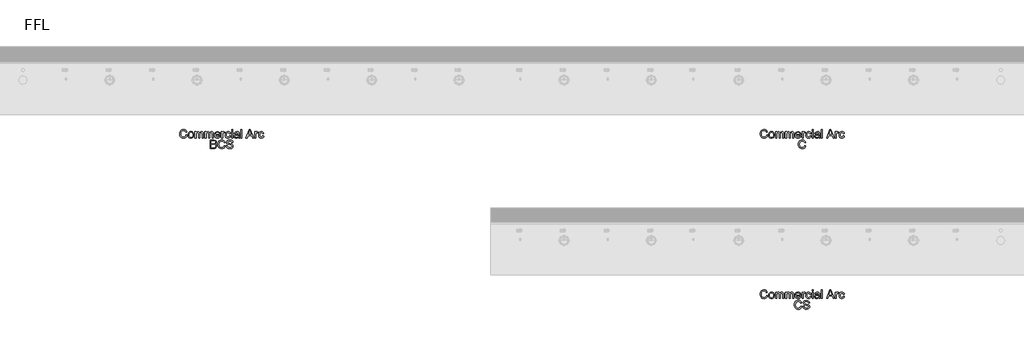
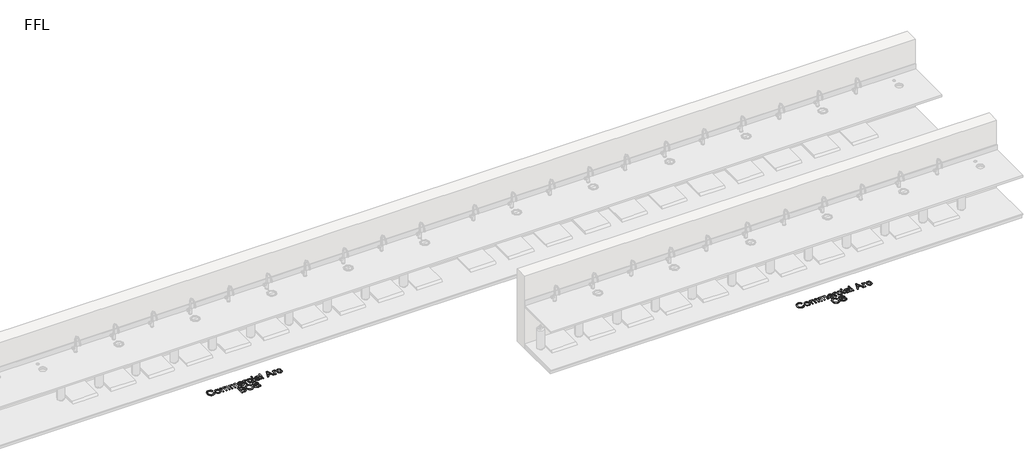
# One storey, part 7 of 10: 3 proxies.
"""IFC4 building model written with IfcOpenShell, lengths in millimetres."""

from ifc_helpers import new_model, si_unit, origin, origin_with_axes, place, context, project, spatial, polyline, outline, extrude, element, save

model = new_model("IFC4")

# Units and contexts
model_context = context("Model", 3, world=origin())
ifc_project = project(units=[si_unit("LENGTHUNIT", "METRE", prefix="MILLI")], contexts=[model_context])

# Site, building, storey
site = spatial("IfcSite", under=ifc_project)
building = spatial("IfcBuilding", under=site)
storey = spatial("IfcBuildingStorey", under=building, Name="FFL", Elevation=0.0)

# Proxies
placement = place(None, origin())
element("IfcBuildingElementProxy", 1, Name="150mm Arial", ObjectType="150mm Arial", at=placement, inside=storey, context=model_context, shape_type="SweptSolid", body=[
    extrude(outline(polyline([(-2955.1199083, -1683.6981691), (-2936.6583698, -1688.4577845), (-2945.1769996, -1709.9707052), (-2958.545389, -1725.6873518), (-2976.1054852, -1735.301234), (-2997.1992352, -1738.5058614), (-3018.6129972, -1736.0809816), (-3035.6187063, -1728.8063422), (-3048.6535621, -1716.934347), (-3058.154764, -1700.7173999), (-3063.9555453, -1681.6518951), (-3065.889139, -1661.2342268), (-3063.7031414, -1639.6987701), (-3057.1451486, -1621.1020153), (-3046.5577087, -1606.0344071), (-3032.2833698, -1595.0863903), (-3015.3542833, -1588.4202244), (-2996.8026006, -1586.1981691), (-2976.5607135, -1589.0737701), (-2959.8254371, -1597.700573), (-2947.1196078, -1611.5467268), (-2938.9660621, -1630.0803807), (-2957.4276006, -1634.4794191), (-2963.8278409, -1621.0163783), (-2972.5718313, -1611.7811018), (-2983.7677448, -1606.4400561), (-2997.5237544, -1604.6597076), (-3013.3801246, -1606.6338662), (-3026.4059659, -1612.5563422), (-3036.2902809, -1621.8051403), (-3042.7220717, -1633.7582653), (-3047.4276006, -1661.1981691), (-3041.8566871, -1693.0010537), (-3034.7352929, -1704.8775561), (-3024.5129371, -1713.3195633), (-3012.2578289, -1718.3631331), (-2999.0381775, -1720.044323), (-2983.6280212, -1717.7546595), (-2970.7869756, -1710.8856691), (-2961.0919635, -1699.5094672), (-2955.1199083, -1683.6981691)])), origin_with_axes(), (0.0, 0.0, 1.0), 5.0),
    extrude(outline(polyline([(-2918.1968313, -1681.9673999), (-2914.2034419, -1655.8165585), (-2902.2232736, -1637.4361499), (-2887.4215909, -1628.4307412), (-2869.6992352, -1625.4289383), (-2850.3047039, -1629.0842869), (-2834.8134179, -1640.0503326), (-2824.6586703, -1657.4616908), (-2821.2737544, -1680.4529768), (-2822.7701486, -1699.1038182), (-2827.2593313, -1713.3015345), (-2834.6105934, -1723.9340465), (-2844.6932256, -1731.8892749), (-2856.6688866, -1736.8517148), (-2869.6992352, -1738.5058614), (-2889.3281414, -1734.8640345), (-2904.8013986, -1723.9385537), (-2914.8479732, -1706.1621114), (-2918.1968313, -1681.9673999)]), holes=[polyline([(-2899.7352929, -1681.9313422), (-2897.5988746, -1698.6395754), (-2891.1896198, -1710.543121), (-2881.5441871, -1717.6690225), (-2869.6992352, -1720.044323), (-2857.9083698, -1717.6555008), (-2848.2809659, -1710.4890345), (-2841.8717111, -1698.4277364), (-2839.7352929, -1681.3544191), (-2841.8852328, -1665.1329648), (-2848.3350525, -1653.3916787), (-2857.975978, -1646.2657773), (-2869.6992352, -1643.8904768), (-2881.5441871, -1646.2567629), (-2891.1896198, -1653.355621), (-2897.5988746, -1665.2321234), (-2899.7352929, -1681.9313422)])]), origin_with_axes(), (0.0, 0.0, 1.0), 5.0),
    extrude(outline(polyline([(-2800.5045236, -1736.1981691), (-2800.5045236, -1627.7366307), (-2782.0429852, -1627.7366307), (-2782.0429852, -1645.5851883), (-2769.3506775, -1630.9637941), (-2751.2857736, -1625.4289383), (-2741.0183458, -1626.8396956), (-2732.7881775, -1631.0719672), (-2722.6199083, -1646.8832653), (-2708.2148602, -1630.7925201), (-2690.0237544, -1625.4289383), (-2676.1460501, -1627.6600081), (-2665.8831294, -1634.3532172), (-2659.5414828, -1645.6888542), (-2657.4276006, -1661.8472076), (-2657.4276006, -1736.1981691), (-2675.889139, -1736.1981691), (-2675.889139, -1669.7798999), (-2677.6018794, -1654.3652364), (-2683.8038025, -1646.7750922), (-2694.3506775, -1643.8904768), (-2704.3521799, -1645.7384335), (-2712.5057256, -1651.2823037), (-2717.927901, -1660.9006932), (-2719.7352929, -1674.9722076), (-2719.7352929, -1736.1981691), (-2738.1968313, -1736.1981691), (-2738.1968313, -1667.7246114), (-2742.4696679, -1649.839996), (-2748.1081895, -1645.3778566), (-2756.4780813, -1643.8904768), (-2770.1439467, -1647.856823), (-2779.2304852, -1659.4673999), (-2782.0429852, -1681.4986499), (-2782.0429852, -1736.1981691), (-2800.5045236, -1736.1981691)])), origin_with_axes(), (0.0, 0.0, 1.0), 5.0),
    extrude(outline(polyline([(-2629.7352929, -1736.1981691), (-2629.7352929, -1627.7366307), (-2611.2737544, -1627.7366307), (-2611.2737544, -1645.5851883), (-2598.5814467, -1630.9637941), (-2580.5165429, -1625.4289383), (-2570.249115, -1626.8396956), (-2562.0189467, -1631.0719672), (-2551.8506775, -1646.8832653), (-2537.4456294, -1630.7925201), (-2519.2545236, -1625.4289383), (-2505.3768193, -1627.6600081), (-2495.1138986, -1634.3532172), (-2488.772252, -1645.6888542), (-2486.6583698, -1661.8472076), (-2486.6583698, -1736.1981691), (-2505.1199083, -1736.1981691), (-2505.1199083, -1669.7798999), (-2506.8326486, -1654.3652364), (-2513.0345717, -1646.7750922), (-2523.5814467, -1643.8904768), (-2533.5829491, -1645.7384335), (-2541.7364948, -1651.2823037), (-2547.1586703, -1660.9006932), (-2548.9660621, -1674.9722076), (-2548.9660621, -1736.1981691), (-2567.4276006, -1736.1981691), (-2567.4276006, -1667.7246114), (-2571.7004371, -1649.839996), (-2577.3389587, -1645.3778566), (-2585.7088506, -1643.8904768), (-2599.3747159, -1647.856823), (-2608.4612544, -1659.4673999), (-2611.2737544, -1681.4986499), (-2611.2737544, -1736.1981691), (-2629.7352929, -1736.1981691)])), origin_with_axes(), (0.0, 0.0, 1.0), 5.0),
    extrude(outline(polyline([(-2383.0285621, -1703.8904768), (-2364.9276006, -1706.1981691), (-2371.4495357, -1719.8369912), (-2381.8566871, -1730.0323037), (-2395.9146799, -1736.387472), (-2413.389139, -1738.5058614), (-2435.0507977, -1734.8505129), (-2451.7184659, -1723.8844672), (-2462.3464708, -1706.3198638), (-2465.889139, -1682.8688422), (-2462.3104131, -1658.6290585), (-2451.5742352, -1640.5010537), (-2435.1319275, -1629.1969672), (-2414.4348121, -1625.4289383), (-2394.382228, -1629.1879528), (-2378.3590909, -1640.464996), (-2367.8527809, -1658.5569432), (-2364.3506775, -1682.7606691), (-2364.4588506, -1687.7366307), (-2447.4276006, -1687.7366307), (-2444.2319876, -1701.5557412), (-2436.8086102, -1711.714996), (-2426.0949684, -1717.9619912), (-2413.0285621, -1720.044323), (-2394.9276006, -1716.1861499), (-2383.0285621, -1703.8904768)]), holes=[polyline([(-2447.4276006, -1669.2750922), (-2382.8122159, -1669.2750922), (-2385.3092111, -1659.5214864), (-2390.2040429, -1652.544323), (-2400.967264, -1646.0539383), (-2414.5069275, -1643.8904768), (-2426.9513385, -1645.6167388), (-2437.2413025, -1650.7955249), (-2444.3942472, -1658.8679408), (-2447.4276006, -1669.2750922)])]), origin_with_axes(), (0.0, 0.0, 1.0), 5.0),
    extrude(outline(polyline([(-2345.889139, -1736.1981691), (-2345.889139, -1627.7366307), (-2329.7352929, -1627.7366307), (-2329.7352929, -1643.7823037), (-2318.2689467, -1628.9986499), (-2306.7304852, -1625.4289383), (-2288.1968313, -1631.1260537), (-2294.3626967, -1647.6765345), (-2307.3434659, -1643.8904768), (-2317.7821679, -1647.5323037), (-2324.4348121, -1657.6284576), (-2327.4276006, -1679.1909576), (-2327.4276006, -1736.1981691), (-2345.889139, -1736.1981691)])), origin_with_axes(), (0.0, 0.0, 1.0), 5.0),
    extrude(outline(polyline([(-2207.4276006, -1696.9673999), (-2188.9660621, -1699.2750922), (-2194.1132977, -1715.6948638), (-2203.7857736, -1728.1032172), (-2217.0730333, -1735.9052004), (-2233.0646198, -1738.5058614), (-2252.7025405, -1734.8775561), (-2268.0586102, -1723.9926403), (-2277.9699684, -1706.3288783), (-2281.2737544, -1682.3640345), (-2275.6307256, -1651.6969672), (-2268.5093313, -1640.1990706), (-2258.4312063, -1631.9914383), (-2246.3744155, -1627.0695633), (-2233.3170236, -1625.4289383), (-2217.7175645, -1627.6825441), (-2205.2461102, -1634.4433614), (-2196.2992953, -1645.3508133), (-2191.2737544, -1660.044323), (-2209.7352929, -1662.3520153), (-2218.2989948, -1648.5238903), (-2233.1727929, -1643.8904768), (-2245.1033818, -1646.1711258), (-2254.5730333, -1653.013073), (-2260.7524203, -1664.7859095), (-2262.8122159, -1681.8592268), (-2260.7974924, -1699.1624119), (-2254.7533217, -1710.9758133), (-2245.4549443, -1717.7771956), (-2233.6776006, -1720.044323), (-2224.1178049, -1718.6290585), (-2216.279764, -1714.3832653), (-2210.5781414, -1707.1987701), (-2207.4276006, -1696.9673999)])), origin_with_axes(), (0.0, 0.0, 1.0), 5.0),
    extrude(outline(polyline([(-2172.8122159, -1606.9673999), (-2172.8122159, -1588.5058614), (-2154.3506775, -1588.5058614), (-2154.3506775, -1606.9673999), (-2172.8122159, -1606.9673999)])), origin_with_axes(), (0.0, 0.0, 1.0), 5.0),
    extrude(outline(polyline([(-2172.8122159, -1736.1981691), (-2172.8122159, -1627.7366307), (-2154.3506775, -1627.7366307), (-2154.3506775, -1736.1981691), (-2172.8122159, -1736.1981691)])), origin_with_axes(), (0.0, 0.0, 1.0), 5.0),
    extrude(outline(polyline([(-2057.4276006, -1722.3520153), (-2075.3302448, -1734.8640345), (-2095.107889, -1738.5058614), (-2110.5360741, -1736.3153566), (-2121.9167833, -1729.7438422), (-2128.9345116, -1719.7648758), (-2131.2737544, -1707.3520153), (-2127.7401006, -1692.7486499), (-2118.4552448, -1682.1476883), (-2105.5285621, -1676.089996), (-2089.5550044, -1673.3135537), (-2057.5357736, -1666.9673999), (-2057.4276006, -1662.856823), (-2058.6986342, -1654.6176403), (-2062.5117352, -1649.2270153), (-2071.0393794, -1645.2246114), (-2082.920389, -1643.8904768), (-2101.5982736, -1647.4421595), (-2110.5045236, -1660.044323), (-2128.9660621, -1657.7366307), (-2120.9792833, -1639.7077845), (-2104.8975525, -1629.1428807), (-2080.5405813, -1625.4289383), (-2058.1667833, -1628.7101883), (-2045.5285621, -1636.949371), (-2039.8675044, -1649.4794191), (-2038.9660621, -1665.6332653), (-2038.9660621, -1688.6020153), (-2038.0285621, -1720.6753326), (-2034.3506775, -1736.1981691), (-2052.8122159, -1736.1981691), (-2057.4276006, -1722.3520153)]), holes=[polyline([(-2057.4276006, -1685.4289383), (-2087.2112544, -1691.089996), (-2103.0946679, -1694.0827845), (-2110.2881775, -1698.950573), (-2112.8122159, -1706.0539383), (-2107.3134179, -1716.0419191), (-2091.1776006, -1720.044323), (-2072.4997159, -1715.6272557), (-2060.4564467, -1704.9361499), (-2057.5357736, -1690.6573037), (-2057.4276006, -1685.4289383)])]), origin_with_axes(), (0.0, 0.0, 1.0), 5.0),
    extrude(outline(polyline([(-2013.5814467, -1736.1981691), (-2013.5814467, -1588.5058614), (-1995.1199083, -1588.5058614), (-1995.1199083, -1736.1981691), (-2013.5814467, -1736.1981691)])), origin_with_axes(), (0.0, 0.0, 1.0), 5.0),
    extrude(outline(polyline([(-1924.6271198, -1736.1981691), (-1865.6727929, -1588.5058614), (-1849.951639, -1588.5058614), (-1790.9973121, -1736.1981691), (-1810.5045236, -1736.1981691), (-1827.4155813, -1690.044323), (-1888.2449083, -1690.044323), (-1905.1199083, -1736.1981691), (-1924.6271198, -1736.1981691)]), holes=[polyline([(-1881.4660621, -1671.5827845), (-1834.1583698, -1671.5827845), (-1847.4636583, -1635.2726883), (-1857.8122159, -1606.9673999), (-1867.0069275, -1632.0996114), (-1881.4660621, -1671.5827845)])]), origin_with_axes(), (0.0, 0.0, 1.0), 5.0),
    extrude(outline(polyline([(-1773.5814467, -1736.1981691), (-1773.5814467, -1627.7366307), (-1757.4276006, -1627.7366307), (-1757.4276006, -1643.7823037), (-1745.9612544, -1628.9986499), (-1734.4227929, -1625.4289383), (-1715.889139, -1631.1260537), (-1722.0550044, -1647.6765345), (-1735.0357736, -1643.8904768), (-1745.4744756, -1647.5323037), (-1752.1271198, -1657.6284576), (-1755.1199083, -1679.1909576), (-1755.1199083, -1736.1981691), (-1773.5814467, -1736.1981691)])), origin_with_axes(), (0.0, 0.0, 1.0), 5.0),
    extrude(outline(polyline([(-1635.1199083, -1696.9673999), (-1616.6583698, -1699.2750922), (-1621.8056054, -1715.6948638), (-1631.4780813, -1728.1032172), (-1644.7653409, -1735.9052004), (-1660.7569275, -1738.5058614), (-1680.3948482, -1734.8775561), (-1695.7509179, -1723.9926403), (-1705.662276, -1706.3288783), (-1708.9660621, -1682.3640345), (-1703.3230333, -1651.6969672), (-1696.201639, -1640.1990706), (-1686.123514, -1631.9914383), (-1674.0667232, -1627.0695633), (-1661.0093313, -1625.4289383), (-1645.4098722, -1627.6825441), (-1632.9384179, -1634.4433614), (-1623.991603, -1645.3508133), (-1618.9660621, -1660.044323), (-1637.4276006, -1662.3520153), (-1645.9913025, -1648.5238903), (-1660.8651006, -1643.8904768), (-1672.7956895, -1646.1711258), (-1682.2653409, -1653.013073), (-1688.444728, -1664.7859095), (-1690.5045236, -1681.8592268), (-1688.4898001, -1699.1624119), (-1682.4456294, -1710.9758133), (-1673.147252, -1717.7771956), (-1661.3699083, -1720.044323), (-1651.8101126, -1718.6290585), (-1643.9720717, -1714.3832653), (-1638.2704491, -1707.1987701), (-1635.1199083, -1696.9673999)])), origin_with_axes(), (0.0, 0.0, 1.0), 5.0),
    extrude(outline(polyline([(-2538.5814467, -1918.5058614), (-2538.5814467, -1770.8135537), (-2482.2232736, -1770.8135537), (-2454.6211102, -1775.1585057), (-2445.3452688, -1780.6708254), (-2438.3230333, -1788.5178807), (-2432.4276006, -1807.4121114), (-2437.3855333, -1824.6657172), (-2452.3675044, -1837.7366307), (-2441.9062664, -1843.199371), (-2434.1763986, -1851.5106691), (-2429.4032616, -1862.1206451), (-2427.8122159, -1874.4794191), (-2432.1571679, -1894.3291787), (-2442.920389, -1908.4637941), (-2458.9840909, -1915.9637941), (-2482.6559659, -1918.5058614), (-2538.5814467, -1918.5058614)]), holes=[polyline([(-2520.1199083, -1900.044323), (-2482.2593313, -1900.044323), (-2468.5574083, -1899.3231691), (-2456.9648602, -1895.3027364), (-2449.2845717, -1887.0996114), (-2446.2737544, -1874.6597076), (-2449.8074083, -1860.308746), (-2461.2557256, -1851.7450441), (-2484.0622159, -1849.2750922), (-2520.1199083, -1849.2750922), (-2520.1199083, -1900.044323)]), polyline([(-2520.1199083, -1830.8135537), (-2486.4059659, -1830.8135537), (-2466.7184659, -1829.2270153), (-2454.873514, -1822.3940826), (-2450.889139, -1810.3688422), (-2454.6030813, -1798.325573), (-2465.2401006, -1791.2041787), (-2488.9660621, -1789.2750922), (-2520.1199083, -1789.2750922), (-2520.1199083, -1830.8135537)])]), origin_with_axes(), (0.0, 0.0, 1.0), 5.0),
    extrude(outline(polyline([(-2298.5814467, -1866.0058614), (-2280.1199083, -1870.7654768), (-2288.6385381, -1892.2783975), (-2302.0069275, -1907.9950441), (-2319.5670236, -1917.6089263), (-2340.6607736, -1920.8135537), (-2362.0745357, -1918.3886739), (-2379.0802448, -1911.1140345), (-2392.1151006, -1899.2420393), (-2401.6163025, -1883.0250922), (-2407.4170837, -1863.9595874), (-2409.3506775, -1843.5419191), (-2407.1646799, -1822.0064624), (-2400.6066871, -1803.4097076), (-2390.0192472, -1788.3420994), (-2375.7449083, -1777.3940826), (-2358.8158217, -1770.7279167), (-2340.264139, -1768.5058614), (-2320.022252, -1771.3814624), (-2303.2869756, -1780.0082653), (-2290.5811462, -1793.8544191), (-2282.4276006, -1812.388073), (-2300.889139, -1816.7871114), (-2307.2893794, -1803.3240706), (-2316.0333698, -1794.0887941), (-2327.2292833, -1788.7477484), (-2340.9852929, -1786.9673999), (-2356.8416631, -1788.9415585), (-2369.8675044, -1794.8640345), (-2379.7518193, -1804.1128326), (-2386.1836102, -1816.0659576), (-2390.889139, -1843.5058614), (-2385.3182256, -1875.308746), (-2378.1968313, -1887.1852484), (-2367.9744756, -1895.6272557), (-2355.7193674, -1900.6708254), (-2342.4997159, -1902.3520153), (-2327.0895597, -1900.0623518), (-2314.248514, -1893.1933614), (-2304.553502, -1881.8171595), (-2298.5814467, -1866.0058614)])), origin_with_axes(), (0.0, 0.0, 1.0), 5.0),
    extrude(outline(polyline([(-2261.6583698, -1867.7366307), (-2243.1968313, -1867.7366307), (-2237.2473121, -1886.216198), (-2222.7160621, -1897.8988903), (-2200.576639, -1902.3520153), (-2181.2857736, -1898.980621), (-2168.8278409, -1889.7137941), (-2164.7352929, -1877.3279768), (-2167.8001967, -1865.8075441), (-2180.3482736, -1857.4241307), (-2207.2292833, -1850.3748518), (-2236.1655813, -1841.2702845), (-2251.8687063, -1827.5323037), (-2257.0429852, -1809.1789383), (-2255.4429251, -1798.3661379), (-2250.6427448, -1788.2835057), (-2242.7686462, -1779.7378326), (-2231.9468313, -1773.5359095), (-2204.5790429, -1768.5058614), (-2175.3723121, -1773.7702845), (-2164.1763986, -1780.2696835), (-2155.9011583, -1789.2390345), (-2150.6637784, -1800.1194432), (-2148.5814467, -1812.3520153), (-2167.0429852, -1812.3520153), (-2170.4324083, -1801.3363903), (-2177.4997159, -1793.3856691), (-2188.5423842, -1788.5719672), (-2203.857889, -1786.9673999), (-2219.5339708, -1788.5539383), (-2230.2881775, -1793.3135537), (-2236.5081294, -1800.3177605), (-2238.5814467, -1808.638073), (-2237.1120958, -1815.7324239), (-2232.7040429, -1821.4385537), (-2202.5598121, -1831.7510537), (-2169.8915429, -1841.0178807), (-2159.3672039, -1847.715597), (-2152.0249563, -1855.981823), (-2146.2737544, -1876.8592268), (-2147.927901, -1888.2399359), (-2152.8903409, -1898.9445633), (-2160.9582496, -1908.1573037), (-2171.9288025, -1915.0623518), (-2199.8554852, -1920.8135537), (-2217.9429251, -1919.263073), (-2232.8302448, -1914.6116307), (-2244.6887184, -1906.841198), (-2253.6896198, -1895.933746), (-2259.467865, -1882.6464864), (-2261.6583698, -1867.7366307)])), origin_with_axes(), (0.0, 0.0, 1.0), 5.0),
])
element("IfcBuildingElementProxy", 2, Name="150mm Arial", ObjectType="150mm Arial", at=placement, inside=storey, context=model_context, shape_type="SweptSolid", body=[
    extrude(outline(polyline([(7014.8800917, -1683.6981691), (7033.3416302, -1688.4577845), (7024.8230004, -1709.9707052), (7011.454611, -1725.6873518), (6993.8945148, -1735.301234), (6972.8007648, -1738.5058614), (6951.3870028, -1736.0809816), (6934.3812937, -1728.8063422), (6921.3464379, -1716.934347), (6911.845236, -1700.7173999), (6906.0444547, -1681.6518951), (6904.110861, -1661.2342268), (6906.2968586, -1639.6987701), (6912.8548514, -1621.1020153), (6923.4422913, -1606.0344071), (6937.7166302, -1595.0863903), (6954.6457167, -1588.4202244), (6973.1973994, -1586.1981691), (6993.4392865, -1589.0737701), (7010.1745629, -1597.700573), (7022.8803922, -1611.5467268), (7031.0339379, -1630.0803807), (7012.5723994, -1634.4794191), (7006.1721591, -1621.0163783), (6997.4281687, -1611.7811018), (6986.2322552, -1606.4400561), (6972.4762456, -1604.6597076), (6956.6198754, -1606.6338662), (6943.5940341, -1612.5563422), (6933.7097191, -1621.8051403), (6927.2779283, -1633.7582653), (6922.5723994, -1661.1981691), (6928.1433129, -1693.0010537), (6935.2647071, -1704.8775561), (6945.4870629, -1713.3195633), (6957.7421711, -1718.3631331), (6970.9618225, -1720.044323), (6986.3719788, -1717.7546595), (6999.2130244, -1710.8856691), (7008.9080365, -1699.5094672), (7014.8800917, -1683.6981691)])), origin_with_axes(), (0.0, 0.0, 1.0), 5.0),
    extrude(outline(polyline([(7051.8031687, -1681.9673999), (7055.7965581, -1655.8165585), (7067.7767264, -1637.4361499), (7082.5784091, -1628.4307412), (7100.3007648, -1625.4289383), (7119.6952961, -1629.0842869), (7135.1865821, -1640.0503326), (7145.3413297, -1657.4616908), (7148.7262456, -1680.4529768), (7147.2298514, -1699.1038182), (7142.7406687, -1713.3015345), (7135.3894066, -1723.9340465), (7125.3067744, -1731.8892749), (7113.3311134, -1736.8517148), (7100.3007648, -1738.5058614), (7080.6718586, -1734.8640345), (7065.1986014, -1723.9385537), (7055.1520268, -1706.1621114), (7051.8031687, -1681.9673999)]), holes=[polyline([(7070.2647071, -1681.9313422), (7072.4011254, -1698.6395754), (7078.8103802, -1710.543121), (7088.4558129, -1717.6690225), (7100.3007648, -1720.044323), (7112.0916302, -1717.6555008), (7121.7190341, -1710.4890345), (7128.1282889, -1698.4277364), (7130.2647071, -1681.3544191), (7128.1147672, -1665.1329648), (7121.6649475, -1653.3916787), (7112.024022, -1646.2657773), (7100.3007648, -1643.8904768), (7088.4558129, -1646.2567629), (7078.8103802, -1653.355621), (7072.4011254, -1665.2321234), (7070.2647071, -1681.9313422)])]), origin_with_axes(), (0.0, 0.0, 1.0), 5.0),
    extrude(outline(polyline([(7169.4954764, -1736.1981691), (7169.4954764, -1627.7366307), (7187.9570148, -1627.7366307), (7187.9570148, -1645.5851883), (7200.6493225, -1630.9637941), (7218.7142264, -1625.4289383), (7228.9816542, -1626.8396956), (7237.2118225, -1631.0719672), (7247.3800917, -1646.8832653), (7261.7851398, -1630.7925201), (7279.9762456, -1625.4289383), (7293.8539499, -1627.6600081), (7304.1168706, -1634.3532172), (7310.4585172, -1645.6888542), (7312.5723994, -1661.8472076), (7312.5723994, -1736.1981691), (7294.110861, -1736.1981691), (7294.110861, -1669.7798999), (7292.3981206, -1654.3652364), (7286.1961975, -1646.7750922), (7275.6493225, -1643.8904768), (7265.6478201, -1645.7384335), (7257.4942744, -1651.2823037), (7252.072099, -1660.9006932), (7250.2647071, -1674.9722076), (7250.2647071, -1736.1981691), (7231.8031687, -1736.1981691), (7231.8031687, -1667.7246114), (7227.5303321, -1649.839996), (7221.8918105, -1645.3778566), (7213.5219187, -1643.8904768), (7199.8560533, -1647.856823), (7190.7695148, -1659.4673999), (7187.9570148, -1681.4986499), (7187.9570148, -1736.1981691), (7169.4954764, -1736.1981691)])), origin_with_axes(), (0.0, 0.0, 1.0), 5.0),
    extrude(outline(polyline([(7340.2647071, -1736.1981691), (7340.2647071, -1627.7366307), (7358.7262456, -1627.7366307), (7358.7262456, -1645.5851883), (7371.4185533, -1630.9637941), (7389.4834571, -1625.4289383), (7399.750885, -1626.8396956), (7407.9810533, -1631.0719672), (7418.1493225, -1646.8832653), (7432.5543706, -1630.7925201), (7450.7454764, -1625.4289383), (7464.6231807, -1627.6600081), (7474.8861014, -1634.3532172), (7481.227748, -1645.6888542), (7483.3416302, -1661.8472076), (7483.3416302, -1736.1981691), (7464.8800917, -1736.1981691), (7464.8800917, -1669.7798999), (7463.1673514, -1654.3652364), (7456.9654283, -1646.7750922), (7446.4185533, -1643.8904768), (7436.4170509, -1645.7384335), (7428.2635052, -1651.2823037), (7422.8413297, -1660.9006932), (7421.0339379, -1674.9722076), (7421.0339379, -1736.1981691), (7402.5723994, -1736.1981691), (7402.5723994, -1667.7246114), (7398.2995629, -1649.839996), (7392.6610413, -1645.3778566), (7384.2911494, -1643.8904768), (7370.6252841, -1647.856823), (7361.5387456, -1659.4673999), (7358.7262456, -1681.4986499), (7358.7262456, -1736.1981691), (7340.2647071, -1736.1981691)])), origin_with_axes(), (0.0, 0.0, 1.0), 5.0),
    extrude(outline(polyline([(7586.9714379, -1703.8904768), (7605.0723994, -1706.1981691), (7598.5504643, -1719.8369912), (7588.1433129, -1730.0323037), (7574.0853201, -1736.387472), (7556.610861, -1738.5058614), (7534.9492023, -1734.8505129), (7518.2815341, -1723.8844672), (7507.6535292, -1706.3198638), (7504.110861, -1682.8688422), (7507.6895869, -1658.6290585), (7518.4257648, -1640.5010537), (7534.8680725, -1629.1969672), (7555.5651879, -1625.4289383), (7575.617772, -1629.1879528), (7591.6409091, -1640.464996), (7602.1472191, -1658.5569432), (7605.6493225, -1682.7606691), (7605.5411494, -1687.7366307), (7522.5723994, -1687.7366307), (7525.7680124, -1701.5557412), (7533.1913898, -1711.714996), (7543.9050316, -1717.9619912), (7556.9714379, -1720.044323), (7575.0723994, -1716.1861499), (7586.9714379, -1703.8904768)]), holes=[polyline([(7522.5723994, -1669.2750922), (7587.1877841, -1669.2750922), (7584.6907889, -1659.5214864), (7579.7959571, -1652.544323), (7569.032736, -1646.0539383), (7555.4930725, -1643.8904768), (7543.0486615, -1645.6167388), (7532.7586975, -1650.7955249), (7525.6057528, -1658.8679408), (7522.5723994, -1669.2750922)])]), origin_with_axes(), (0.0, 0.0, 1.0), 5.0),
    extrude(outline(polyline([(7624.110861, -1736.1981691), (7624.110861, -1627.7366307), (7640.2647071, -1627.7366307), (7640.2647071, -1643.7823037), (7651.7310533, -1628.9986499), (7663.2695148, -1625.4289383), (7681.8031687, -1631.1260537), (7675.6373033, -1647.6765345), (7662.6565341, -1643.8904768), (7652.2178321, -1647.5323037), (7645.5651879, -1657.6284576), (7642.5723994, -1679.1909576), (7642.5723994, -1736.1981691), (7624.110861, -1736.1981691)])), origin_with_axes(), (0.0, 0.0, 1.0), 5.0),
    extrude(outline(polyline([(7762.5723994, -1696.9673999), (7781.0339379, -1699.2750922), (7775.8867023, -1715.6948638), (7766.2142264, -1728.1032172), (7752.9269667, -1735.9052004), (7736.9353802, -1738.5058614), (7717.2974595, -1734.8775561), (7701.9413898, -1723.9926403), (7692.0300316, -1706.3288783), (7688.7262456, -1682.3640345), (7694.3692744, -1651.6969672), (7701.4906687, -1640.1990706), (7711.5687937, -1631.9914383), (7723.6255845, -1627.0695633), (7736.6829764, -1625.4289383), (7752.2824355, -1627.6825441), (7764.7538898, -1634.4433614), (7773.7007047, -1645.3508133), (7778.7262456, -1660.044323), (7760.2647071, -1662.3520153), (7751.7010052, -1648.5238903), (7736.8272071, -1643.8904768), (7724.8966182, -1646.1711258), (7715.4269667, -1653.013073), (7709.2475797, -1664.7859095), (7707.1877841, -1681.8592268), (7709.2025076, -1699.1624119), (7715.2466783, -1710.9758133), (7724.5450557, -1717.7771956), (7736.3223994, -1720.044323), (7745.8821951, -1718.6290585), (7753.720236, -1714.3832653), (7759.4218586, -1707.1987701), (7762.5723994, -1696.9673999)])), origin_with_axes(), (0.0, 0.0, 1.0), 5.0),
    extrude(outline(polyline([(7797.1877841, -1606.9673999), (7797.1877841, -1588.5058614), (7815.6493225, -1588.5058614), (7815.6493225, -1606.9673999), (7797.1877841, -1606.9673999)])), origin_with_axes(), (0.0, 0.0, 1.0), 5.0),
    extrude(outline(polyline([(7797.1877841, -1736.1981691), (7797.1877841, -1627.7366307), (7815.6493225, -1627.7366307), (7815.6493225, -1736.1981691), (7797.1877841, -1736.1981691)])), origin_with_axes(), (0.0, 0.0, 1.0), 5.0),
    extrude(outline(polyline([(7912.5723994, -1722.3520153), (7894.6697552, -1734.8640345), (7874.892111, -1738.5058614), (7859.4639259, -1736.3153566), (7848.0832167, -1729.7438422), (7841.0654884, -1719.7648758), (7838.7262456, -1707.3520153), (7842.2598994, -1692.7486499), (7851.5447552, -1682.1476883), (7864.4714379, -1676.089996), (7880.4449956, -1673.3135537), (7912.4642264, -1666.9673999), (7912.5723994, -1662.856823), (7911.3013658, -1654.6176403), (7907.4882648, -1649.2270153), (7898.9606206, -1645.2246114), (7887.079611, -1643.8904768), (7868.4017264, -1647.4421595), (7859.4954764, -1660.044323), (7841.0339379, -1657.7366307), (7849.0207167, -1639.7077845), (7865.1024475, -1629.1428807), (7889.4594187, -1625.4289383), (7911.8332167, -1628.7101883), (7924.4714379, -1636.949371), (7930.1324956, -1649.4794191), (7931.0339379, -1665.6332653), (7931.0339379, -1688.6020153), (7931.9714379, -1720.6753326), (7935.6493225, -1736.1981691), (7917.1877841, -1736.1981691), (7912.5723994, -1722.3520153)]), holes=[polyline([(7912.5723994, -1685.4289383), (7882.7887456, -1691.089996), (7866.9053321, -1694.0827845), (7859.7118225, -1698.950573), (7857.1877841, -1706.0539383), (7862.6865821, -1716.0419191), (7878.8223994, -1720.044323), (7897.5002841, -1715.6272557), (7909.5435533, -1704.9361499), (7912.4642264, -1690.6573037), (7912.5723994, -1685.4289383)])]), origin_with_axes(), (0.0, 0.0, 1.0), 5.0),
    extrude(outline(polyline([(7956.4185533, -1736.1981691), (7956.4185533, -1588.5058614), (7974.8800917, -1588.5058614), (7974.8800917, -1736.1981691), (7956.4185533, -1736.1981691)])), origin_with_axes(), (0.0, 0.0, 1.0), 5.0),
    extrude(outline(polyline([(8045.3728802, -1736.1981691), (8104.3272071, -1588.5058614), (8120.048361, -1588.5058614), (8179.0026879, -1736.1981691), (8159.4954764, -1736.1981691), (8142.5844187, -1690.044323), (8081.7550917, -1690.044323), (8064.8800917, -1736.1981691), (8045.3728802, -1736.1981691)]), holes=[polyline([(8088.5339379, -1671.5827845), (8135.8416302, -1671.5827845), (8122.5363417, -1635.2726883), (8112.1877841, -1606.9673999), (8102.9930725, -1632.0996114), (8088.5339379, -1671.5827845)])]), origin_with_axes(), (0.0, 0.0, 1.0), 5.0),
    extrude(outline(polyline([(8196.4185533, -1736.1981691), (8196.4185533, -1627.7366307), (8212.5723994, -1627.7366307), (8212.5723994, -1643.7823037), (8224.0387456, -1628.9986499), (8235.5772071, -1625.4289383), (8254.110861, -1631.1260537), (8247.9449956, -1647.6765345), (8234.9642264, -1643.8904768), (8224.5255244, -1647.5323037), (8217.8728802, -1657.6284576), (8214.8800917, -1679.1909576), (8214.8800917, -1736.1981691), (8196.4185533, -1736.1981691)])), origin_with_axes(), (0.0, 0.0, 1.0), 5.0),
    extrude(outline(polyline([(8334.8800917, -1696.9673999), (8353.3416302, -1699.2750922), (8348.1943946, -1715.6948638), (8338.5219187, -1728.1032172), (8325.2346591, -1735.9052004), (8309.2430725, -1738.5058614), (8289.6051518, -1734.8775561), (8274.2490821, -1723.9926403), (8264.337724, -1706.3288783), (8261.0339379, -1682.3640345), (8266.6769667, -1651.6969672), (8273.798361, -1640.1990706), (8283.876486, -1631.9914383), (8295.9332768, -1627.0695633), (8308.9906687, -1625.4289383), (8324.5901278, -1627.6825441), (8337.0615821, -1634.4433614), (8346.008397, -1645.3508133), (8351.0339379, -1660.044323), (8332.5723994, -1662.3520153), (8324.0086975, -1648.5238903), (8309.1348994, -1643.8904768), (8297.2043105, -1646.1711258), (8287.7346591, -1653.013073), (8281.555272, -1664.7859095), (8279.4954764, -1681.8592268), (8281.5101999, -1699.1624119), (8287.5543706, -1710.9758133), (8296.852748, -1717.7771956), (8308.6300917, -1720.044323), (8318.1898874, -1718.6290585), (8326.0279283, -1714.3832653), (8331.7295509, -1707.1987701), (8334.8800917, -1696.9673999)])), origin_with_axes(), (0.0, 0.0, 1.0), 5.0),
    extrude(outline(polyline([(7671.4185533, -1866.0058614), (7689.8800917, -1870.7654768), (7681.3614619, -1892.2783975), (7667.9930725, -1907.9950441), (7650.4329764, -1917.6089263), (7629.3392264, -1920.8135537), (7607.9254643, -1918.3886739), (7590.9197552, -1911.1140345), (7577.8848994, -1899.2420393), (7568.3836975, -1883.0250922), (7562.5829163, -1863.9595874), (7560.6493225, -1843.5419191), (7562.8353201, -1822.0064624), (7569.3933129, -1803.4097076), (7579.9807528, -1788.3420994), (7594.2550917, -1777.3940826), (7611.1841783, -1770.7279167), (7629.735861, -1768.5058614), (7649.977748, -1771.3814624), (7666.7130244, -1780.0082653), (7679.4188538, -1793.8544191), (7687.5723994, -1812.388073), (7669.110861, -1816.7871114), (7662.7106206, -1803.3240706), (7653.9666302, -1794.0887941), (7642.7707167, -1788.7477484), (7629.0147071, -1786.9673999), (7613.1583369, -1788.9415585), (7600.1324956, -1794.8640345), (7590.2481807, -1804.1128326), (7583.8163898, -1816.0659576), (7579.110861, -1843.5058614), (7584.6817744, -1875.308746), (7591.8031687, -1887.1852484), (7602.0255244, -1895.6272557), (7614.2806326, -1900.6708254), (7627.5002841, -1902.3520153), (7642.9104403, -1900.0623518), (7655.751486, -1893.1933614), (7665.446498, -1881.8171595), (7671.4185533, -1866.0058614)])), origin_with_axes(), (0.0, 0.0, 1.0), 5.0),
])
element("IfcBuildingElementProxy", 3, Name="150mm Arial", ObjectType="150mm Arial", at=placement, inside=storey, context=model_context, shape_type="SweptSolid", body=[
    extrude(outline(polyline([(7014.8800917, -4443.6981691), (7033.3416302, -4448.4577845), (7024.8230004, -4469.9707052), (7011.454611, -4485.6873518), (6993.8945148, -4495.301234), (6972.8007648, -4498.5058614), (6951.3870028, -4496.0809816), (6934.3812937, -4488.8063422), (6921.3464379, -4476.934347), (6911.845236, -4460.7173999), (6906.0444547, -4441.6518951), (6904.110861, -4421.2342268), (6906.2968586, -4399.6987701), (6912.8548514, -4381.1020153), (6923.4422913, -4366.0344071), (6937.7166302, -4355.0863903), (6954.6457167, -4348.4202244), (6973.1973994, -4346.1981691), (6993.4392865, -4349.0737701), (7010.1745629, -4357.700573), (7022.8803922, -4371.5467268), (7031.0339379, -4390.0803807), (7012.5723994, -4394.4794191), (7006.1721591, -4381.0163783), (6997.4281687, -4371.7811018), (6986.2322552, -4366.4400561), (6972.4762456, -4364.6597076), (6956.6198754, -4366.6338662), (6943.5940341, -4372.5563422), (6933.7097191, -4381.8051403), (6927.2779283, -4393.7582653), (6922.5723994, -4421.1981691), (6928.1433129, -4453.0010537), (6935.2647071, -4464.8775561), (6945.4870629, -4473.3195633), (6957.7421711, -4478.3631331), (6970.9618225, -4480.044323), (6986.3719788, -4477.7546595), (6999.2130244, -4470.8856691), (7008.9080365, -4459.5094672), (7014.8800917, -4443.6981691)])), origin_with_axes(), (0.0, 0.0, 1.0), 5.0),
    extrude(outline(polyline([(7051.8031687, -4441.9673999), (7055.7965581, -4415.8165585), (7067.7767264, -4397.4361499), (7082.5784091, -4388.4307412), (7100.3007648, -4385.4289383), (7119.6952961, -4389.0842869), (7135.1865821, -4400.0503326), (7145.3413297, -4417.4616908), (7148.7262456, -4440.4529768), (7147.2298514, -4459.1038182), (7142.7406687, -4473.3015345), (7135.3894066, -4483.9340465), (7125.3067744, -4491.8892749), (7113.3311134, -4496.8517148), (7100.3007648, -4498.5058614), (7080.6718586, -4494.8640345), (7065.1986014, -4483.9385537), (7055.1520268, -4466.1621114), (7051.8031687, -4441.9673999)]), holes=[polyline([(7070.2647071, -4441.9313422), (7072.4011254, -4458.6395754), (7078.8103802, -4470.543121), (7088.4558129, -4477.6690225), (7100.3007648, -4480.044323), (7112.0916302, -4477.6555008), (7121.7190341, -4470.4890345), (7128.1282889, -4458.4277364), (7130.2647071, -4441.3544191), (7128.1147672, -4425.1329648), (7121.6649475, -4413.3916787), (7112.024022, -4406.2657773), (7100.3007648, -4403.8904768), (7088.4558129, -4406.2567629), (7078.8103802, -4413.355621), (7072.4011254, -4425.2321234), (7070.2647071, -4441.9313422)])]), origin_with_axes(), (0.0, 0.0, 1.0), 5.0),
    extrude(outline(polyline([(7169.4954764, -4496.1981691), (7169.4954764, -4387.7366307), (7187.9570148, -4387.7366307), (7187.9570148, -4405.5851883), (7200.6493225, -4390.9637941), (7218.7142264, -4385.4289383), (7228.9816542, -4386.8396956), (7237.2118225, -4391.0719672), (7247.3800917, -4406.8832653), (7261.7851398, -4390.7925201), (7279.9762456, -4385.4289383), (7293.8539499, -4387.6600081), (7304.1168706, -4394.3532172), (7310.4585172, -4405.6888542), (7312.5723994, -4421.8472076), (7312.5723994, -4496.1981691), (7294.110861, -4496.1981691), (7294.110861, -4429.7798999), (7292.3981206, -4414.3652364), (7286.1961975, -4406.7750922), (7275.6493225, -4403.8904768), (7265.6478201, -4405.7384335), (7257.4942744, -4411.2823037), (7252.072099, -4420.9006932), (7250.2647071, -4434.9722076), (7250.2647071, -4496.1981691), (7231.8031687, -4496.1981691), (7231.8031687, -4427.7246114), (7227.5303321, -4409.839996), (7221.8918105, -4405.3778566), (7213.5219187, -4403.8904768), (7199.8560533, -4407.856823), (7190.7695148, -4419.4673999), (7187.9570148, -4441.4986499), (7187.9570148, -4496.1981691), (7169.4954764, -4496.1981691)])), origin_with_axes(), (0.0, 0.0, 1.0), 5.0),
    extrude(outline(polyline([(7340.2647071, -4496.1981691), (7340.2647071, -4387.7366307), (7358.7262456, -4387.7366307), (7358.7262456, -4405.5851883), (7371.4185533, -4390.9637941), (7389.4834571, -4385.4289383), (7399.750885, -4386.8396956), (7407.9810533, -4391.0719672), (7418.1493225, -4406.8832653), (7432.5543706, -4390.7925201), (7450.7454764, -4385.4289383), (7464.6231807, -4387.6600081), (7474.8861014, -4394.3532172), (7481.227748, -4405.6888542), (7483.3416302, -4421.8472076), (7483.3416302, -4496.1981691), (7464.8800917, -4496.1981691), (7464.8800917, -4429.7798999), (7463.1673514, -4414.3652364), (7456.9654283, -4406.7750922), (7446.4185533, -4403.8904768), (7436.4170509, -4405.7384335), (7428.2635052, -4411.2823037), (7422.8413297, -4420.9006932), (7421.0339379, -4434.9722076), (7421.0339379, -4496.1981691), (7402.5723994, -4496.1981691), (7402.5723994, -4427.7246114), (7398.2995629, -4409.839996), (7392.6610413, -4405.3778566), (7384.2911494, -4403.8904768), (7370.6252841, -4407.856823), (7361.5387456, -4419.4673999), (7358.7262456, -4441.4986499), (7358.7262456, -4496.1981691), (7340.2647071, -4496.1981691)])), origin_with_axes(), (0.0, 0.0, 1.0), 5.0),
    extrude(outline(polyline([(7586.9714379, -4463.8904768), (7605.0723994, -4466.1981691), (7598.5504643, -4479.8369912), (7588.1433129, -4490.0323037), (7574.0853201, -4496.387472), (7556.610861, -4498.5058614), (7534.9492023, -4494.8505129), (7518.2815341, -4483.8844672), (7507.6535292, -4466.3198638), (7504.110861, -4442.8688422), (7507.6895869, -4418.6290585), (7518.4257648, -4400.5010537), (7534.8680725, -4389.1969672), (7555.5651879, -4385.4289383), (7575.617772, -4389.1879528), (7591.6409091, -4400.464996), (7602.1472191, -4418.5569432), (7605.6493225, -4442.7606691), (7605.5411494, -4447.7366307), (7522.5723994, -4447.7366307), (7525.7680124, -4461.5557412), (7533.1913898, -4471.714996), (7543.9050316, -4477.9619912), (7556.9714379, -4480.044323), (7575.0723994, -4476.1861499), (7586.9714379, -4463.8904768)]), holes=[polyline([(7522.5723994, -4429.2750922), (7587.1877841, -4429.2750922), (7584.6907889, -4419.5214864), (7579.7959571, -4412.544323), (7569.032736, -4406.0539383), (7555.4930725, -4403.8904768), (7543.0486615, -4405.6167388), (7532.7586975, -4410.7955249), (7525.6057528, -4418.8679408), (7522.5723994, -4429.2750922)])]), origin_with_axes(), (0.0, 0.0, 1.0), 5.0),
    extrude(outline(polyline([(7624.110861, -4496.1981691), (7624.110861, -4387.7366307), (7640.2647071, -4387.7366307), (7640.2647071, -4403.7823037), (7651.7310533, -4388.9986499), (7663.2695148, -4385.4289383), (7681.8031687, -4391.1260537), (7675.6373033, -4407.6765345), (7662.6565341, -4403.8904768), (7652.2178321, -4407.5323037), (7645.5651879, -4417.6284576), (7642.5723994, -4439.1909576), (7642.5723994, -4496.1981691), (7624.110861, -4496.1981691)])), origin_with_axes(), (0.0, 0.0, 1.0), 5.0),
    extrude(outline(polyline([(7762.5723994, -4456.9673999), (7781.0339379, -4459.2750922), (7775.8867023, -4475.6948638), (7766.2142264, -4488.1032172), (7752.9269667, -4495.9052004), (7736.9353802, -4498.5058614), (7717.2974595, -4494.8775561), (7701.9413898, -4483.9926403), (7692.0300316, -4466.3288783), (7688.7262456, -4442.3640345), (7694.3692744, -4411.6969672), (7701.4906687, -4400.1990706), (7711.5687937, -4391.9914383), (7723.6255845, -4387.0695633), (7736.6829764, -4385.4289383), (7752.2824355, -4387.6825441), (7764.7538898, -4394.4433614), (7773.7007047, -4405.3508133), (7778.7262456, -4420.044323), (7760.2647071, -4422.3520153), (7751.7010052, -4408.5238903), (7736.8272071, -4403.8904768), (7724.8966182, -4406.1711258), (7715.4269667, -4413.013073), (7709.2475797, -4424.7859095), (7707.1877841, -4441.8592268), (7709.2025076, -4459.1624119), (7715.2466783, -4470.9758133), (7724.5450557, -4477.7771956), (7736.3223994, -4480.044323), (7745.8821951, -4478.6290585), (7753.720236, -4474.3832653), (7759.4218586, -4467.1987701), (7762.5723994, -4456.9673999)])), origin_with_axes(), (0.0, 0.0, 1.0), 5.0),
    extrude(outline(polyline([(7797.1877841, -4366.9673999), (7797.1877841, -4348.5058614), (7815.6493225, -4348.5058614), (7815.6493225, -4366.9673999), (7797.1877841, -4366.9673999)])), origin_with_axes(), (0.0, 0.0, 1.0), 5.0),
    extrude(outline(polyline([(7797.1877841, -4496.1981691), (7797.1877841, -4387.7366307), (7815.6493225, -4387.7366307), (7815.6493225, -4496.1981691), (7797.1877841, -4496.1981691)])), origin_with_axes(), (0.0, 0.0, 1.0), 5.0),
    extrude(outline(polyline([(7912.5723994, -4482.3520153), (7894.6697552, -4494.8640345), (7874.892111, -4498.5058614), (7859.4639259, -4496.3153566), (7848.0832167, -4489.7438422), (7841.0654884, -4479.7648758), (7838.7262456, -4467.3520153), (7842.2598994, -4452.7486499), (7851.5447552, -4442.1476883), (7864.4714379, -4436.089996), (7880.4449956, -4433.3135537), (7912.4642264, -4426.9673999), (7912.5723994, -4422.856823), (7911.3013658, -4414.6176403), (7907.4882648, -4409.2270153), (7898.9606206, -4405.2246114), (7887.079611, -4403.8904768), (7868.4017264, -4407.4421595), (7859.4954764, -4420.044323), (7841.0339379, -4417.7366307), (7849.0207167, -4399.7077845), (7865.1024475, -4389.1428807), (7889.4594187, -4385.4289383), (7911.8332167, -4388.7101883), (7924.4714379, -4396.949371), (7930.1324956, -4409.4794191), (7931.0339379, -4425.6332653), (7931.0339379, -4448.6020153), (7931.9714379, -4480.6753326), (7935.6493225, -4496.1981691), (7917.1877841, -4496.1981691), (7912.5723994, -4482.3520153)]), holes=[polyline([(7912.5723994, -4445.4289383), (7882.7887456, -4451.089996), (7866.9053321, -4454.0827845), (7859.7118225, -4458.950573), (7857.1877841, -4466.0539383), (7862.6865821, -4476.0419191), (7878.8223994, -4480.044323), (7897.5002841, -4475.6272557), (7909.5435533, -4464.9361499), (7912.4642264, -4450.6573037), (7912.5723994, -4445.4289383)])]), origin_with_axes(), (0.0, 0.0, 1.0), 5.0),
    extrude(outline(polyline([(7956.4185533, -4496.1981691), (7956.4185533, -4348.5058614), (7974.8800917, -4348.5058614), (7974.8800917, -4496.1981691), (7956.4185533, -4496.1981691)])), origin_with_axes(), (0.0, 0.0, 1.0), 5.0),
    extrude(outline(polyline([(8045.3728802, -4496.1981691), (8104.3272071, -4348.5058614), (8120.048361, -4348.5058614), (8179.0026879, -4496.1981691), (8159.4954764, -4496.1981691), (8142.5844187, -4450.044323), (8081.7550917, -4450.044323), (8064.8800917, -4496.1981691), (8045.3728802, -4496.1981691)]), holes=[polyline([(8088.5339379, -4431.5827845), (8135.8416302, -4431.5827845), (8122.5363417, -4395.2726883), (8112.1877841, -4366.9673999), (8102.9930725, -4392.0996114), (8088.5339379, -4431.5827845)])]), origin_with_axes(), (0.0, 0.0, 1.0), 5.0),
    extrude(outline(polyline([(8196.4185533, -4496.1981691), (8196.4185533, -4387.7366307), (8212.5723994, -4387.7366307), (8212.5723994, -4403.7823037), (8224.0387456, -4388.9986499), (8235.5772071, -4385.4289383), (8254.110861, -4391.1260537), (8247.9449956, -4407.6765345), (8234.9642264, -4403.8904768), (8224.5255244, -4407.5323037), (8217.8728802, -4417.6284576), (8214.8800917, -4439.1909576), (8214.8800917, -4496.1981691), (8196.4185533, -4496.1981691)])), origin_with_axes(), (0.0, 0.0, 1.0), 5.0),
    extrude(outline(polyline([(8334.8800917, -4456.9673999), (8353.3416302, -4459.2750922), (8348.1943946, -4475.6948638), (8338.5219187, -4488.1032172), (8325.2346591, -4495.9052004), (8309.2430725, -4498.5058614), (8289.6051518, -4494.8775561), (8274.2490821, -4483.9926403), (8264.337724, -4466.3288783), (8261.0339379, -4442.3640345), (8266.6769667, -4411.6969672), (8273.798361, -4400.1990706), (8283.876486, -4391.9914383), (8295.9332768, -4387.0695633), (8308.9906687, -4385.4289383), (8324.5901278, -4387.6825441), (8337.0615821, -4394.4433614), (8346.008397, -4405.3508133), (8351.0339379, -4420.044323), (8332.5723994, -4422.3520153), (8324.0086975, -4408.5238903), (8309.1348994, -4403.8904768), (8297.2043105, -4406.1711258), (8287.7346591, -4413.013073), (8281.555272, -4424.7859095), (8279.4954764, -4441.8592268), (8281.5101999, -4459.1624119), (8287.5543706, -4470.9758133), (8296.852748, -4477.7771956), (8308.6300917, -4480.044323), (8318.1898874, -4478.6290585), (8326.0279283, -4474.3832653), (8331.7295509, -4467.1987701), (8334.8800917, -4456.9673999)])), origin_with_axes(), (0.0, 0.0, 1.0), 5.0),
    extrude(outline(polyline([(7603.3416302, -4626.0058614), (7621.8031687, -4630.7654768), (7613.2845389, -4652.2783975), (7599.9161494, -4667.9950441), (7582.3560533, -4677.6089263), (7561.2623033, -4680.8135537), (7539.8485413, -4678.3886739), (7522.8428321, -4671.1140345), (7509.8079764, -4659.2420393), (7500.3067744, -4643.0250922), (7494.5059932, -4623.9595874), (7492.5723994, -4603.5419191), (7494.758397, -4582.0064624), (7501.3163898, -4563.4097076), (7511.9038297, -4548.3420994), (7526.1781687, -4537.3940826), (7543.1072552, -4530.7279167), (7561.6589379, -4528.5058614), (7581.9008249, -4531.3814624), (7598.6361014, -4540.0082653), (7611.3419307, -4553.8544191), (7619.4954764, -4572.388073), (7601.0339379, -4576.7871114), (7594.6336975, -4563.3240706), (7585.8897071, -4554.0887941), (7574.6937937, -4548.7477484), (7560.9377841, -4546.9673999), (7545.0814139, -4548.9415585), (7532.0555725, -4554.8640345), (7522.1712576, -4564.1128326), (7515.7394667, -4576.0659576), (7511.0339379, -4603.5058614), (7516.6048514, -4635.308746), (7523.7262456, -4647.1852484), (7533.9486014, -4655.6272557), (7546.2037095, -4660.6708254), (7559.423361, -4662.3520153), (7574.8335172, -4660.0623518), (7587.6745629, -4653.1933614), (7597.3695749, -4641.8171595), (7603.3416302, -4626.0058614)])), origin_with_axes(), (0.0, 0.0, 1.0), 5.0),
    extrude(outline(polyline([(7640.2647071, -4627.7366307), (7658.7262456, -4627.7366307), (7664.6757648, -4646.216198), (7679.2070148, -4657.8988903), (7701.3464379, -4662.3520153), (7720.6373033, -4658.980621), (7733.095236, -4649.7137941), (7737.1877841, -4637.3279768), (7734.1228802, -4625.8075441), (7721.5748033, -4617.4241307), (7694.6937937, -4610.3748518), (7665.7574956, -4601.2702845), (7650.0543706, -4587.5323037), (7644.8800917, -4569.1789383), (7646.4801518, -4558.3661379), (7651.2803321, -4548.2835057), (7659.1544307, -4539.7378326), (7669.9762456, -4533.5359095), (7697.3440341, -4528.5058614), (7726.5507648, -4533.7702845), (7737.7466783, -4540.2696835), (7746.0219187, -4549.2390345), (7751.2592985, -4560.1194432), (7753.3416302, -4572.3520153), (7734.8800917, -4572.3520153), (7731.4906687, -4561.3363903), (7724.423361, -4553.3856691), (7713.3806927, -4548.5719672), (7698.0651879, -4546.9673999), (7682.3891062, -4548.5539383), (7671.6348994, -4553.3135537), (7665.4149475, -4560.3177605), (7663.3416302, -4568.638073), (7664.8109812, -4575.7324239), (7669.2190341, -4581.4385537), (7699.3632648, -4591.7510537), (7732.0315341, -4601.0178807), (7742.555873, -4607.715597), (7749.8981206, -4615.981823), (7755.6493225, -4636.8592268), (7753.9951759, -4648.2399359), (7749.032736, -4658.9445633), (7740.9648273, -4668.1573037), (7729.9942744, -4675.0623518), (7702.0675917, -4680.8135537), (7683.9801518, -4679.263073), (7669.0928321, -4674.6116307), (7657.2343586, -4666.841198), (7648.2334571, -4655.933746), (7642.4552119, -4642.6464864), (7640.2647071, -4627.7366307)])), origin_with_axes(), (0.0, 0.0, 1.0), 5.0),
])

save(model, "model.ifc")
